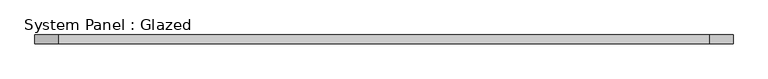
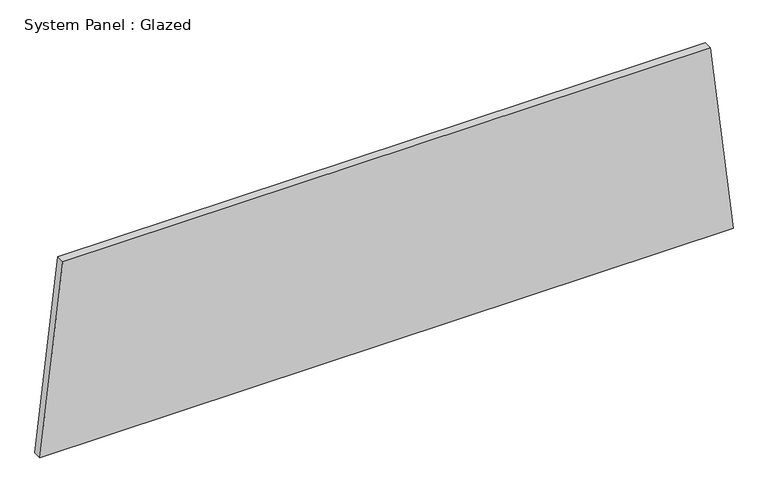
"""IFC4 building model written with IfcOpenShell, lengths in millimetres: plate geometry, System Panel : Glazed."""

from ifc_helpers import new_model, si_unit, frame, origin, place, context, project, spatial, polyline, outline, extrude, source, transform, mapped, element, save


def system_panel_glazed_7f1dd4a7(model_context):
    return source(origin(), model_context, "Body", "SweptSolid", [
        extrude(outline(polyline([(0.0, -1010.8235916), (0.0, 1010.8235916), (580.1853211, 943.9063452), (580.1853211, -943.9063452), (0.0, -1010.8235916)])), frame((0.0, 19.05, 0.0), z_axis=(0.0, 1.0, 0.0), x_axis=(0.0, 0.0, 1.0)), (0.0, 0.0, 1.0), 25.4),
    ])


if __name__ == "__main__":
    model = new_model("IFC4")
    model_context = context("Model", 3, world=origin())
    ifc_project = project(units=[si_unit("LENGTHUNIT", "METRE", prefix="MILLI")], contexts=[model_context])
    site = spatial("IfcSite", under=ifc_project)
    building = spatial("IfcBuilding", under=site)
    placement = place(None, origin())
    system_panel_glazed_shape = system_panel_glazed_7f1dd4a7(model_context)
    element("IfcPlate", 1, ObjectType="System Panel : Glazed", at=placement, inside=building, context=model_context, shape_type="MappedRepresentation", body=[
        mapped(system_panel_glazed_shape, transform((0.0, 0.0, 0.0), x_axis=(1.0, 0.0, 0.0), y_axis=(0.0, 1.0, 0.0), z_axis=(0.0, 0.0, 1.0))),
    ])
    save(model, "model.ifc")
